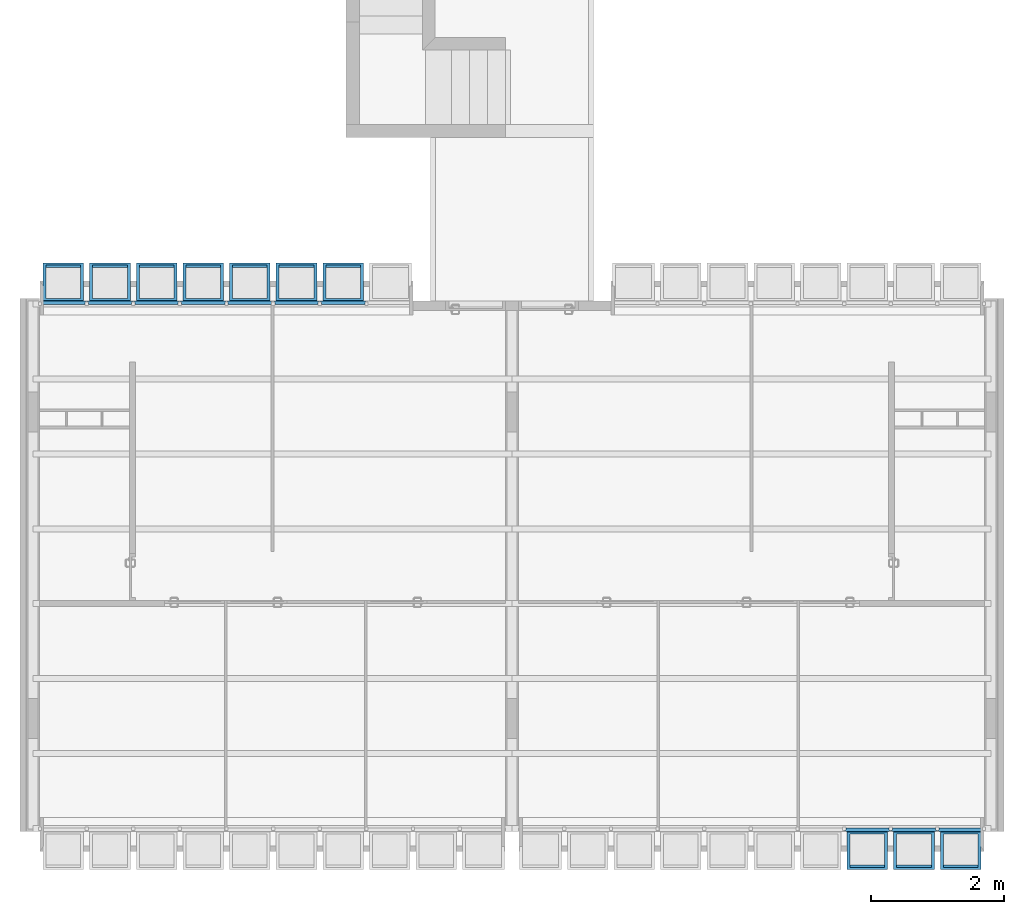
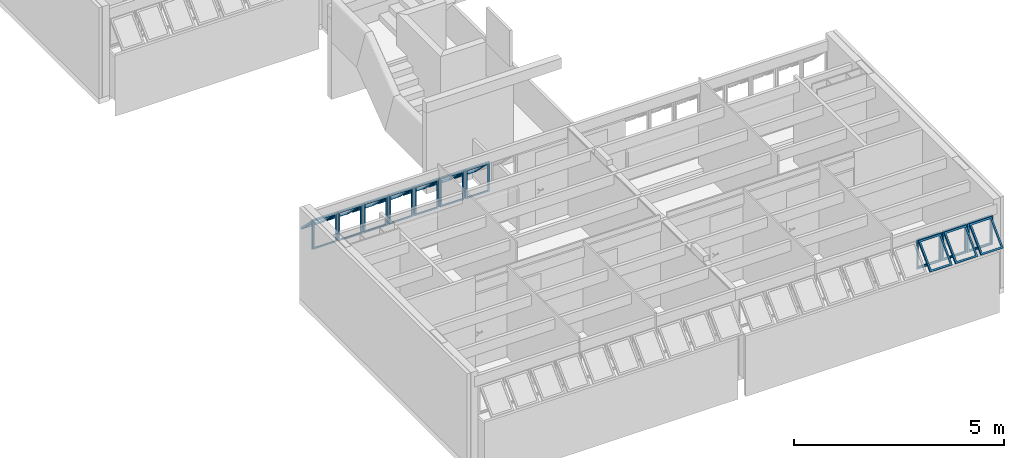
# One storey, part 29 of 38: 10 building element parts, 12 elements without a shape of their own.
"""IFC2X3 building model written with IfcOpenShell, lengths in millimetres."""

from ifc_helpers import new_model, entity, si_unit, converted_unit, derived_unit, money_unit, direction, frame, origin_with_axes, place, context, subcontext, project, spatial, faceted_brep, source, transform, mapped, material, type_object, element, aggregate, save


model = new_model("IFC2X3")

# Units and contexts
model_context = context("Model", 3, precision=0.01, world=origin_with_axes(), true_north=direction((0.0, 1.0)))
body_context = subcontext(model_context, "Body", "Model", "MODEL_VIEW")
ifc_project = project(units=[si_unit("LENGTHUNIT", "METRE", prefix="MILLI"), si_unit("AREAUNIT", "SQUARE_METRE"), si_unit("VOLUMEUNIT", "CUBIC_METRE"), converted_unit("PLANEANGLEUNIT", "DEGREE", entity("IfcPlaneAngleMeasure", 0.0174532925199), si_unit("PLANEANGLEUNIT", "RADIAN"), dimensions=[0, 0, 0, 0, 0, 0, 0]), money_unit("USD"), converted_unit("TIMEUNIT", "Year", entity("IfcTimeMeasure", 31556926.0), si_unit("TIMEUNIT", "SECOND"), dimensions=[0, 0, 1, 0, 0, 0, 0]), si_unit("MASSUNIT", "GRAM", prefix="KILO"), si_unit("THERMODYNAMICTEMPERATUREUNIT", "DEGREE_CELSIUS"), si_unit("LUMINOUSINTENSITYUNIT", "LUMEN"), si_unit("ENERGYUNIT", "JOULE", prefix="MEGA"), derived_unit("THERMALCONDUCTANCEUNIT", [(si_unit("POWERUNIT", "WATT"), 1), (si_unit("LENGTHUNIT", "METRE"), -1), (si_unit("THERMODYNAMICTEMPERATUREUNIT", "KELVIN"), -1)]), derived_unit("SPECIFICHEATCAPACITYUNIT", [(si_unit("ENERGYUNIT", "JOULE"), 1), (si_unit("MASSUNIT", "GRAM", prefix="KILO"), -1), (si_unit("THERMODYNAMICTEMPERATUREUNIT", "KELVIN"), -1)]), derived_unit("MASSDENSITYUNIT", [(si_unit("MASSUNIT", "GRAM", prefix="KILO"), 1), (si_unit("VOLUMEUNIT", "CUBIC_METRE"), -1)])], contexts=[model_context])

# Site, building, storey
site_placement = place(None, origin_with_axes())
site = spatial("IfcSite", under=ifc_project, at=site_placement, Name="Local", CompositionType="ELEMENT")
building_placement = place(site_placement, origin_with_axes())
building = spatial("IfcBuilding", under=site, at=building_placement, Name="Construção", CompositionType="ELEMENT")
storey_placement = place(building_placement, frame((0.0, 0.0, 2650.0), z_axis=(0.0, 0.0, 1.0), x_axis=(1.0, 0.0, 0.0)))
storey = spatial("IfcBuildingStorey", under=building, at=storey_placement, Name="Segundo Pavimento", CompositionType="ELEMENT", Elevation=2650.0)

# Window, plates, building element parts
window_style = type_object("IfcWindowStyle", Name="Tipo de Parede Cortina", ConstructionType="NOTDEFINED", OperationType="NOTDEFINED", ParameterTakesPrecedence=False, Sizeable=False)
window_1_placement = place(storey_placement, frame((2750.0, 8250.0, 1355.00007107), z_axis=(0.0, 0.0, 1.0), x_axis=(1.0, 0.0, 0.0)))
window_1 = element("IfcWindow", 1, at=window_1_placement, inside=storey, type_object=window_style, Name="APTO5-JANELA-000")
plate_type = type_object("IfcPlateType", Name="Painel Principal 690 x 845 x 20", PredefinedType="CURTAIN_PANEL")
plate_1_placement = place(window_1_placement, frame((0.0, 0.0, 422.499964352), z_axis=(0.0, 0.0, 1.0), x_axis=(-1.0, 0.0, 0.0)))
plate_1 = element("IfcPlate", 2, at=plate_1_placement, type_object=plate_type, Name="APTO5-Painel-Prin-013")
ifc_material = material(Name="Alumínio")
shared_shape_1 = source(origin_with_axes(), body_context, "Body", "Brep", [
    faceted_brep([(-25.0000036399, 0.0, -40.0), (-25.0000036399, 0.0, -35.0), (-674.999997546, 0.0, -35.0), (-674.999997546, 0.0, -40.0), (-70.0000036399, 45.0, -40.0), (-70.0000036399, 45.0, -35.0), (-629.999997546, 45.0, -35.0), (-629.999997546, 45.0, -40.0)], [[[0, 1, 2, 3]], [[4, 5, 1, 0]], [[1, 5, 6, 2]], [[3, 2, 6, 7]], [[0, 3, 7, 4]], [[7, 6, 5, 4]]]),
    faceted_brep([(-674.999997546, 0.0, -40.0), (-674.999997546, 0.0, -35.0), (-674.999997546, 844.999891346, -35.0), (-674.999997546, 844.999891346, -40.0), (-629.999997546, 45.0, -40.0), (-629.999997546, 45.0, -35.0), (-629.999997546, 799.999891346, -35.0), (-629.999997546, 799.999891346, -40.0)], [[[0, 1, 2, 3]], [[4, 5, 1, 0]], [[1, 5, 6, 2]], [[3, 2, 6, 7]], [[0, 3, 7, 4]], [[7, 6, 5, 4]]]),
    faceted_brep([(-25.0000036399, 844.999891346, -40.0), (-25.0000036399, 844.999891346, -35.0), (-70.0000036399, 799.999891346, -35.0), (-70.0000036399, 799.999891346, -40.0), (-674.999997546, 844.999891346, -40.0), (-674.999997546, 844.999891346, -35.0), (-629.999997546, 799.999891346, -35.0), (-629.999997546, 799.999891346, -40.0)], [[[0, 1, 2, 3]], [[4, 5, 1, 0]], [[1, 5, 6, 2]], [[3, 2, 6, 7]], [[0, 3, 7, 4]], [[7, 6, 5, 4]]]),
    faceted_brep([(-25.0000036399, 0.0, -40.0), (-25.0000036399, 0.0, -35.0), (-70.0000036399, 45.0, -35.0), (-70.0000036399, 45.0, -40.0), (-25.0000036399, 844.999891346, -40.0), (-25.0000036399, 844.999891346, -35.0), (-70.0000036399, 799.999891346, -35.0), (-70.0000036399, 799.999891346, -40.0)], [[[0, 1, 2, 3]], [[4, 5, 1, 0]], [[1, 5, 6, 2]], [[3, 2, 6, 7]], [[0, 3, 7, 4]], [[7, 6, 5, 4]]]),
    faceted_brep([(-25.0000036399, 0.0, -35.0), (-25.0000036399, 0.0, 15.0), (-674.999997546, 0.0, 15.0), (-674.999997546, 0.0, -35.0), (-45.0000036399, 20.0, -35.0), (-45.0000036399, 20.0, 15.0), (-654.999997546, 20.0, 15.0), (-654.999997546, 20.0, -35.0)], [[[0, 1, 2, 3]], [[4, 5, 1, 0]], [[1, 5, 6, 2]], [[3, 2, 6, 7]], [[0, 3, 7, 4]], [[7, 6, 5, 4]]]),
    faceted_brep([(-674.999997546, 0.0, -35.0), (-674.999997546, 0.0, 15.0), (-674.999997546, 844.999891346, 15.0), (-674.999997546, 844.999891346, -35.0), (-654.999997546, 20.0, -35.0), (-654.999997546, 20.0, 15.0), (-654.999997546, 824.999891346, 15.0), (-654.999997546, 824.999891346, -35.0)], [[[0, 1, 2, 3]], [[4, 5, 1, 0]], [[1, 5, 6, 2]], [[3, 2, 6, 7]], [[0, 3, 7, 4]], [[7, 6, 5, 4]]]),
    faceted_brep([(-25.0000036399, 844.999891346, -35.0), (-25.0000036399, 844.999891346, 15.0), (-45.0000036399, 824.999891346, 15.0), (-45.0000036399, 824.999891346, -35.0), (-674.999997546, 844.999891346, -35.0), (-674.999997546, 844.999891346, 15.0), (-654.999997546, 824.999891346, 15.0), (-654.999997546, 824.999891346, -35.0)], [[[0, 1, 2, 3]], [[4, 5, 1, 0]], [[1, 5, 6, 2]], [[3, 2, 6, 7]], [[0, 3, 7, 4]], [[7, 6, 5, 4]]]),
    faceted_brep([(-25.0000036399, 0.0, -35.0), (-25.0000036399, 0.0, 15.0), (-45.0000036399, 20.0, 15.0), (-45.0000036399, 20.0, -35.0), (-25.0000036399, 844.999891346, -35.0), (-25.0000036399, 844.999891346, 15.0), (-45.0000036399, 824.999891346, 15.0), (-45.0000036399, 824.999891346, -35.0)], [[[0, 1, 2, 3]], [[4, 5, 1, 0]], [[1, 5, 6, 2]], [[3, 2, 6, 7]], [[0, 3, 7, 4]], [[7, 6, 5, 4]]]),
    faceted_brep([(-694.999995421, 0.0, -10.0), (-694.999995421, 0.0, 10.0), (-694.999995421, 844.999891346, 10.0), (-694.999995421, 844.999891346, -10.0), (-674.999997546, 0.0, -10.0), (-674.999997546, 0.0, 10.0), (-674.999997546, 844.999891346, 10.0), (-674.999997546, 844.999891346, -10.0)], [[[0, 1, 2, 3]], [[4, 5, 1, 0]], [[1, 5, 6, 2]], [[3, 2, 6, 7]], [[0, 3, 7, 4]], [[7, 6, 5, 4]]]),
    faceted_brep([(-5.00000576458, 844.999891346, -10.0), (-5.00000576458, 844.999891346, 10.0), (-5.00000576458, 0.0, 10.0), (-5.00000576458, 0.0, -10.0), (-25.0000036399, 844.999891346, -10.0), (-25.0000036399, 844.999891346, 10.0), (-25.0000036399, 0.0, 10.0), (-25.0000036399, 0.0, -10.0)], [[[0, 1, 2, 3]], [[4, 5, 1, 0]], [[1, 5, 6, 2]], [[3, 2, 6, 7]], [[0, 3, 7, 4]], [[7, 6, 5, 4]]]),
    faceted_brep([(-90.0000036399, 252.243475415, 517.045737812), (-90.0000036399, 291.13434838, 555.936610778), (-90.0000036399, 796.715620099, 50.3553390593), (-90.0000036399, 757.824747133, 11.4644660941), (-45.0000036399, 220.423670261, 548.865542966), (-45.0000036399, 259.314543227, 587.756415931), (-45.0000036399, 828.535425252, 18.5355339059), (-45.0000036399, 789.644552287, -20.3553390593)], [[[0, 1, 2, 3]], [[4, 5, 1, 0]], [[1, 5, 6, 2]], [[3, 2, 6, 7]], [[0, 3, 7, 4]], [[7, 6, 5, 4]]]),
    faceted_brep([(-654.999997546, 220.423670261, 548.865542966), (-654.999997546, 259.314543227, 587.756415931), (-654.999997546, 828.535425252, 18.5355339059), (-654.999997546, 789.644552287, -20.3553390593), (-609.999997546, 252.243475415, 517.045737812), (-609.999997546, 291.13434838, 555.936610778), (-609.999997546, 796.715620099, 50.3553390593), (-609.999997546, 757.824747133, 11.4644660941)], [[[0, 1, 2, 3]], [[4, 5, 1, 0]], [[1, 5, 6, 2]], [[3, 2, 6, 7]], [[0, 3, 7, 4]], [[7, 6, 5, 4]]]),
    faceted_brep([(-654.999997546, 220.423670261, 548.865542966), (-654.999997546, 259.314543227, 587.756415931), (-609.999997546, 291.13434838, 555.936610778), (-609.999997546, 252.243475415, 517.045737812), (-45.0000036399, 220.423670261, 548.865542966), (-45.0000036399, 259.314543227, 587.756415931), (-90.0000036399, 291.13434838, 555.936610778), (-90.0000036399, 252.243475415, 517.045737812)], [[[0, 1, 2, 3]], [[4, 5, 1, 0]], [[1, 5, 6, 2]], [[3, 2, 6, 7]], [[0, 3, 7, 4]], [[7, 6, 5, 4]]]),
    faceted_brep([(-45.0000036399, 789.644552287, -20.3553390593), (-45.0000036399, 828.535425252, 18.5355339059), (-90.0000036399, 796.715620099, 50.3553390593), (-90.0000036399, 757.824747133, 11.4644660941), (-654.999997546, 789.644552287, -20.3553390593), (-654.999997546, 828.535425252, 18.5355339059), (-609.999997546, 796.715620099, 50.3553390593), (-609.999997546, 757.824747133, 11.4644660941)], [[[0, 1, 2, 3]], [[4, 5, 1, 0]], [[1, 5, 6, 2]], [[3, 2, 6, 7]], [[0, 3, 7, 4]], [[7, 6, 5, 4]]]),
])
building_element_part_1_placement = place(plate_1_placement, origin_with_axes())
building_element_part_1 = element("IfcBuildingElementPart", 3, at=building_element_part_1_placement, material=ifc_material, Name="Alumínio", context=body_context, shape_type="MappedRepresentation", body=[
    mapped(shared_shape_1, transform((350.0, 0.0, -422.499964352), x_axis=(1.0, 0.0, 0.0), y_axis=(0.0, 0.0, 1.0), z_axis=(0.0, -1.0, 0.0))),
])
aggregate(plate_1, [building_element_part_1])
plate_2_placement = place(window_1_placement, frame((2100.0, 0.0, 422.499964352), z_axis=(0.0, 0.0, 1.0), x_axis=(-1.0, 0.0, 0.0)))
plate_2 = element("IfcPlate", 4, at=plate_2_placement, type_object=plate_type, Name="APTO5-Painel-Prin-029")
building_element_part_2_placement = place(plate_2_placement, origin_with_axes())
building_element_part_2 = element("IfcBuildingElementPart", 5, at=building_element_part_2_placement, material=ifc_material, Name="Alumínio", context=body_context, shape_type="MappedRepresentation", body=[
    mapped(shared_shape_1, transform((350.0, 0.0, -422.499964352), x_axis=(1.0, 0.0, 0.0), y_axis=(0.0, 0.0, 1.0), z_axis=(0.0, -1.0, 0.0))),
])
aggregate(plate_2, [building_element_part_2])
plate_3_placement = place(window_1_placement, frame((-2100.0, 0.0, 422.499998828), z_axis=(0.0, 0.0, 1.0), x_axis=(-1.0, 0.0, 0.0)))
plate_3 = element("IfcPlate", 6, at=plate_3_placement, type_object=plate_type, Name="APTO5-Painel-Prin-013")
shared_shape_2 = source(origin_with_axes(), body_context, "Body", "Brep", [
    faceted_brep([(-25.0000036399, 0.0, -40.0), (-25.0000036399, 0.0, -35.0), (-674.999997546, 0.0, -35.0), (-674.999997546, 0.0, -40.0), (-70.0000036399, 45.0, -40.0), (-70.0000036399, 45.0, -35.0), (-629.999997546, 45.0, -35.0), (-629.999997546, 45.0, -40.0)], [[[0, 1, 2, 3]], [[4, 5, 1, 0]], [[1, 5, 6, 2]], [[3, 2, 6, 7]], [[0, 3, 7, 4]], [[7, 6, 5, 4]]]),
    faceted_brep([(-674.999997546, 0.0, -40.0), (-674.999997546, 0.0, -35.0), (-674.999997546, 844.999891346, -35.0), (-674.999997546, 844.999891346, -40.0), (-629.999997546, 45.0, -40.0), (-629.999997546, 45.0, -35.0), (-629.999997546, 799.999891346, -35.0), (-629.999997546, 799.999891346, -40.0)], [[[0, 1, 2, 3]], [[4, 5, 1, 0]], [[1, 5, 6, 2]], [[3, 2, 6, 7]], [[0, 3, 7, 4]], [[7, 6, 5, 4]]]),
    faceted_brep([(-25.0000036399, 844.999891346, -40.0), (-25.0000036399, 844.999891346, -35.0), (-70.0000036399, 799.999891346, -35.0), (-70.0000036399, 799.999891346, -40.0), (-674.999997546, 844.999891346, -40.0), (-674.999997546, 844.999891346, -35.0), (-629.999997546, 799.999891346, -35.0), (-629.999997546, 799.999891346, -40.0)], [[[0, 1, 2, 3]], [[4, 5, 1, 0]], [[1, 5, 6, 2]], [[3, 2, 6, 7]], [[0, 3, 7, 4]], [[7, 6, 5, 4]]]),
    faceted_brep([(-25.0000036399, 0.0, -40.0), (-25.0000036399, 0.0, -35.0), (-70.0000036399, 45.0, -35.0), (-70.0000036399, 45.0, -40.0), (-25.0000036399, 844.999891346, -40.0), (-25.0000036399, 844.999891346, -35.0), (-70.0000036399, 799.999891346, -35.0), (-70.0000036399, 799.999891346, -40.0)], [[[0, 1, 2, 3]], [[4, 5, 1, 0]], [[1, 5, 6, 2]], [[3, 2, 6, 7]], [[0, 3, 7, 4]], [[7, 6, 5, 4]]]),
    faceted_brep([(-25.0000036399, 0.0, -35.0), (-25.0000036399, 0.0, 15.0), (-674.999997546, 0.0, 15.0), (-674.999997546, 0.0, -35.0), (-45.0000036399, 20.0, -35.0), (-45.0000036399, 20.0, 15.0), (-654.999997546, 20.0, 15.0), (-654.999997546, 20.0, -35.0)], [[[0, 1, 2, 3]], [[4, 5, 1, 0]], [[1, 5, 6, 2]], [[3, 2, 6, 7]], [[0, 3, 7, 4]], [[7, 6, 5, 4]]]),
    faceted_brep([(-674.999997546, 0.0, -35.0), (-674.999997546, 0.0, 15.0), (-674.999997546, 844.999891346, 15.0), (-674.999997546, 844.999891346, -35.0), (-654.999997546, 20.0, -35.0), (-654.999997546, 20.0, 15.0), (-654.999997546, 824.999891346, 15.0), (-654.999997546, 824.999891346, -35.0)], [[[0, 1, 2, 3]], [[4, 5, 1, 0]], [[1, 5, 6, 2]], [[3, 2, 6, 7]], [[0, 3, 7, 4]], [[7, 6, 5, 4]]]),
    faceted_brep([(-25.0000036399, 844.999891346, -35.0), (-25.0000036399, 844.999891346, 15.0), (-45.0000036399, 824.999891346, 15.0), (-45.0000036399, 824.999891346, -35.0), (-674.999997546, 844.999891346, -35.0), (-674.999997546, 844.999891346, 15.0), (-654.999997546, 824.999891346, 15.0), (-654.999997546, 824.999891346, -35.0)], [[[0, 1, 2, 3]], [[4, 5, 1, 0]], [[1, 5, 6, 2]], [[3, 2, 6, 7]], [[0, 3, 7, 4]], [[7, 6, 5, 4]]]),
    faceted_brep([(-25.0000036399, 0.0, -35.0), (-25.0000036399, 0.0, 15.0), (-45.0000036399, 20.0, 15.0), (-45.0000036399, 20.0, -35.0), (-25.0000036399, 844.999891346, -35.0), (-25.0000036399, 844.999891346, 15.0), (-45.0000036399, 824.999891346, 15.0), (-45.0000036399, 824.999891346, -35.0)], [[[0, 1, 2, 3]], [[4, 5, 1, 0]], [[1, 5, 6, 2]], [[3, 2, 6, 7]], [[0, 3, 7, 4]], [[7, 6, 5, 4]]]),
    faceted_brep([(-694.999995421, 0.0, -10.0), (-694.999995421, 0.0, 10.0), (-694.999995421, 844.999891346, 10.0), (-694.999995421, 844.999891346, -10.0), (-674.999997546, 0.0, -10.0), (-674.999997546, 0.0, 10.0), (-674.999997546, 844.999891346, 10.0), (-674.999997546, 844.999891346, -10.0)], [[[0, 1, 2, 3]], [[4, 5, 1, 0]], [[1, 5, 6, 2]], [[3, 2, 6, 7]], [[0, 3, 7, 4]], [[7, 6, 5, 4]]]),
    faceted_brep([(-5.00000576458, 844.999891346, -10.0), (-5.00000576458, 844.999891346, 10.0), (-5.00000576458, 0.0, 10.0), (-5.00000576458, 0.0, -10.0), (-25.0000036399, 844.999891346, -10.0), (-25.0000036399, 844.999891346, 10.0), (-25.0000036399, 0.0, 10.0), (-25.0000036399, 0.0, -10.0)], [[[0, 1, 2, 3]], [[4, 5, 1, 0]], [[1, 5, 6, 2]], [[3, 2, 6, 7]], [[0, 3, 7, 4]], [[7, 6, 5, 4]]]),
    faceted_brep([(-90.0000036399, 252.243475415, 517.045737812), (-90.0000036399, 291.13434838, 555.936610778), (-90.0000036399, 796.715620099, 50.3553390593), (-90.0000036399, 757.824747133, 11.4644660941), (-45.0000036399, 220.423670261, 548.865542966), (-45.0000036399, 259.314543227, 587.756415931), (-45.0000036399, 828.535425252, 18.5355339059), (-45.0000036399, 789.644552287, -20.3553390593)], [[[0, 1, 2, 3]], [[4, 5, 1, 0]], [[1, 5, 6, 2]], [[3, 2, 6, 7]], [[0, 3, 7, 4]], [[7, 6, 5, 4]]]),
    faceted_brep([(-654.999997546, 220.423670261, 548.865542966), (-654.999997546, 259.314543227, 587.756415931), (-654.999997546, 828.535425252, 18.5355339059), (-654.999997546, 789.644552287, -20.3553390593), (-609.999997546, 252.243475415, 517.045737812), (-609.999997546, 291.13434838, 555.936610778), (-609.999997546, 796.715620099, 50.3553390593), (-609.999997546, 757.824747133, 11.4644660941)], [[[0, 1, 2, 3]], [[4, 5, 1, 0]], [[1, 5, 6, 2]], [[3, 2, 6, 7]], [[0, 3, 7, 4]], [[7, 6, 5, 4]]]),
    faceted_brep([(-654.999997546, 220.423670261, 548.865542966), (-654.999997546, 259.314543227, 587.756415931), (-609.999997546, 291.13434838, 555.936610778), (-609.999997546, 252.243475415, 517.045737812), (-45.0000036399, 220.423670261, 548.865542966), (-45.0000036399, 259.314543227, 587.756415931), (-90.0000036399, 291.13434838, 555.936610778), (-90.0000036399, 252.243475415, 517.045737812)], [[[0, 1, 2, 3]], [[4, 5, 1, 0]], [[1, 5, 6, 2]], [[3, 2, 6, 7]], [[0, 3, 7, 4]], [[7, 6, 5, 4]]]),
    faceted_brep([(-45.0000036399, 789.644552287, -20.3553390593), (-45.0000036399, 828.535425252, 18.5355339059), (-90.0000036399, 796.715620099, 50.3553390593), (-90.0000036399, 757.824747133, 11.4644660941), (-654.999997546, 789.644552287, -20.3553390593), (-654.999997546, 828.535425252, 18.5355339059), (-609.999997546, 796.715620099, 50.3553390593), (-609.999997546, 757.824747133, 11.4644660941)], [[[0, 1, 2, 3]], [[4, 5, 1, 0]], [[1, 5, 6, 2]], [[3, 2, 6, 7]], [[0, 3, 7, 4]], [[7, 6, 5, 4]]]),
])
building_element_part_3_placement = place(plate_3_placement, origin_with_axes())
building_element_part_3 = element("IfcBuildingElementPart", 7, at=building_element_part_3_placement, material=ifc_material, Name="Alumínio", context=body_context, shape_type="MappedRepresentation", body=[
    mapped(shared_shape_2, transform((350.0, 0.0, -422.499998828), x_axis=(1.0, 0.0, 0.0), y_axis=(0.0, 0.0, 1.0), z_axis=(0.0, -1.0, 0.0))),
])
aggregate(plate_3, [building_element_part_3])
plate_4_placement = place(window_1_placement, frame((-1400.0, 0.0, 422.499964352), z_axis=(0.0, 0.0, 1.0), x_axis=(-1.0, 0.0, 0.0)))
plate_4 = element("IfcPlate", 8, at=plate_4_placement, type_object=plate_type, Name="APTO5-Painel-Prin-013")
building_element_part_4_placement = place(plate_4_placement, origin_with_axes())
building_element_part_4 = element("IfcBuildingElementPart", 9, at=building_element_part_4_placement, material=ifc_material, Name="Alumínio", context=body_context, shape_type="MappedRepresentation", body=[
    mapped(shared_shape_2, transform((350.0, 0.0, -422.499964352), x_axis=(1.0, 0.0, 0.0), y_axis=(0.0, 0.0, 1.0), z_axis=(0.0, -1.0, 0.0))),
])
aggregate(plate_4, [building_element_part_4])
plate_5_placement = place(window_1_placement, frame((1400.0, 0.0, 422.499964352), z_axis=(0.0, 0.0, 1.0), x_axis=(-1.0, 0.0, 0.0)))
plate_5 = element("IfcPlate", 10, at=plate_5_placement, type_object=plate_type, Name="APTO5-Painel-Prin-025")
building_element_part_5_placement = place(plate_5_placement, origin_with_axes())
building_element_part_5 = element("IfcBuildingElementPart", 11, at=building_element_part_5_placement, material=ifc_material, Name="Alumínio", context=body_context, shape_type="MappedRepresentation", body=[
    mapped(shared_shape_2, transform((350.0, 0.0, -422.499964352), x_axis=(1.0, 0.0, 0.0), y_axis=(0.0, 0.0, 1.0), z_axis=(0.0, -1.0, 0.0))),
])
aggregate(plate_5, [building_element_part_5])

window_2_placement = place(storey_placement, frame((8520.0, 315.020977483, 1355.02054151), z_axis=(0.0, 0.0, 1.0), x_axis=(1.0, 0.0, 0.0)))
window_2 = element("IfcWindow", 12, at=window_2_placement, inside=storey, type_object=window_style, Name="APTO6-JANELA-001")
plate_6_placement = place(window_2_placement, frame((5600.0, 0.0, 422.499945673), z_axis=(0.0, 0.0, 1.0), x_axis=(1.0, 0.0, 0.0)))
plate_6 = element("IfcPlate", 13, at=plate_6_placement, type_object=plate_type, Name="APTO6-Painel-Prin-013")
building_element_part_6_placement = place(plate_6_placement, origin_with_axes())
building_element_part_6 = element("IfcBuildingElementPart", 14, at=building_element_part_6_placement, material=ifc_material, Name="Alumínio", context=body_context, shape_type="MappedRepresentation", body=[
    mapped(shared_shape_2, transform((350.0, 0.0, -422.499945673), x_axis=(1.0, 0.0, 0.0), y_axis=(0.0, 0.0, 1.0), z_axis=(0.0, -1.0, 0.0))),
])
aggregate(plate_6, [building_element_part_6])
plate_7_placement = place(window_2_placement, frame((4900.0, 0.0, 422.499945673), z_axis=(0.0, 0.0, 1.0), x_axis=(1.0, 0.0, 0.0)))
plate_7 = element("IfcPlate", 15, at=plate_7_placement, type_object=plate_type, Name="APTO6-Painel-Prin-013")
building_element_part_7_placement = place(plate_7_placement, origin_with_axes())
building_element_part_7 = element("IfcBuildingElementPart", 16, at=building_element_part_7_placement, material=ifc_material, Name="Alumínio", context=body_context, shape_type="MappedRepresentation", body=[
    mapped(shared_shape_2, transform((350.0, 0.0, -422.499945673), x_axis=(1.0, 0.0, 0.0), y_axis=(0.0, 0.0, 1.0), z_axis=(0.0, -1.0, 0.0))),
])
aggregate(plate_7, [building_element_part_7])

# Plate, building element part
plate_8_placement = place(window_1_placement, frame((700.0, 0.0, 422.499964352), z_axis=(0.0, 0.0, 1.0), x_axis=(-1.0, 0.0, 0.0)))
plate_8 = element("IfcPlate", 17, at=plate_8_placement, type_object=plate_type, Name="APTO5-Painel-Prin-013")
shared_shape_3 = source(origin_with_axes(), body_context, "Body", "Brep", [
    faceted_brep([(-25.0000036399, 0.0, -40.0), (-25.0000036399, 0.0, -35.0), (-674.999997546, 0.0, -35.0), (-674.999997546, 0.0, -40.0), (-70.0000036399, 45.0, -40.0), (-70.0000036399, 45.0, -35.0), (-629.999997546, 45.0, -35.0), (-629.999997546, 45.0, -40.0)], [[[0, 1, 2, 3]], [[4, 5, 1, 0]], [[1, 5, 6, 2]], [[3, 2, 6, 7]], [[0, 3, 7, 4]], [[7, 6, 5, 4]]]),
    faceted_brep([(-674.999997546, 0.0, -40.0), (-674.999997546, 0.0, -35.0), (-674.999997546, 844.999891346, -35.0), (-674.999997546, 844.999891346, -40.0), (-629.999997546, 45.0, -40.0), (-629.999997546, 45.0, -35.0), (-629.999997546, 799.999891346, -35.0), (-629.999997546, 799.999891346, -40.0)], [[[0, 1, 2, 3]], [[4, 5, 1, 0]], [[1, 5, 6, 2]], [[3, 2, 6, 7]], [[0, 3, 7, 4]], [[7, 6, 5, 4]]]),
    faceted_brep([(-25.0000036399, 844.999891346, -40.0), (-25.0000036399, 844.999891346, -35.0), (-70.0000036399, 799.999891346, -35.0), (-70.0000036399, 799.999891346, -40.0), (-674.999997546, 844.999891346, -40.0), (-674.999997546, 844.999891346, -35.0), (-629.999997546, 799.999891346, -35.0), (-629.999997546, 799.999891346, -40.0)], [[[0, 1, 2, 3]], [[4, 5, 1, 0]], [[1, 5, 6, 2]], [[3, 2, 6, 7]], [[0, 3, 7, 4]], [[7, 6, 5, 4]]]),
    faceted_brep([(-25.0000036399, 0.0, -40.0), (-25.0000036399, 0.0, -35.0), (-70.0000036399, 45.0, -35.0), (-70.0000036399, 45.0, -40.0), (-25.0000036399, 844.999891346, -40.0), (-25.0000036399, 844.999891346, -35.0), (-70.0000036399, 799.999891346, -35.0), (-70.0000036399, 799.999891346, -40.0)], [[[0, 1, 2, 3]], [[4, 5, 1, 0]], [[1, 5, 6, 2]], [[3, 2, 6, 7]], [[0, 3, 7, 4]], [[7, 6, 5, 4]]]),
    faceted_brep([(-25.0000036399, 0.0, -35.0), (-25.0000036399, 0.0, 15.0), (-674.999997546, 0.0, 15.0), (-674.999997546, 0.0, -35.0), (-45.0000036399, 20.0, -35.0), (-45.0000036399, 20.0, 15.0), (-654.999997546, 20.0, 15.0), (-654.999997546, 20.0, -35.0)], [[[0, 1, 2, 3]], [[4, 5, 1, 0]], [[1, 5, 6, 2]], [[3, 2, 6, 7]], [[0, 3, 7, 4]], [[7, 6, 5, 4]]]),
    faceted_brep([(-674.999997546, 0.0, -35.0), (-674.999997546, 0.0, 15.0), (-674.999997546, 844.999891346, 15.0), (-674.999997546, 844.999891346, -35.0), (-654.999997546, 20.0, -35.0), (-654.999997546, 20.0, 15.0), (-654.999997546, 824.999891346, 15.0), (-654.999997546, 824.999891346, -35.0)], [[[0, 1, 2, 3]], [[4, 5, 1, 0]], [[1, 5, 6, 2]], [[3, 2, 6, 7]], [[0, 3, 7, 4]], [[7, 6, 5, 4]]]),
    faceted_brep([(-25.0000036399, 844.999891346, -35.0), (-25.0000036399, 844.999891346, 15.0), (-45.0000036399, 824.999891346, 15.0), (-45.0000036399, 824.999891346, -35.0), (-674.999997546, 844.999891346, -35.0), (-674.999997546, 844.999891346, 15.0), (-654.999997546, 824.999891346, 15.0), (-654.999997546, 824.999891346, -35.0)], [[[0, 1, 2, 3]], [[4, 5, 1, 0]], [[1, 5, 6, 2]], [[3, 2, 6, 7]], [[0, 3, 7, 4]], [[7, 6, 5, 4]]]),
    faceted_brep([(-25.0000036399, 0.0, -35.0), (-25.0000036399, 0.0, 15.0), (-45.0000036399, 20.0, 15.0), (-45.0000036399, 20.0, -35.0), (-25.0000036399, 844.999891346, -35.0), (-25.0000036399, 844.999891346, 15.0), (-45.0000036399, 824.999891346, 15.0), (-45.0000036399, 824.999891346, -35.0)], [[[0, 1, 2, 3]], [[4, 5, 1, 0]], [[1, 5, 6, 2]], [[3, 2, 6, 7]], [[0, 3, 7, 4]], [[7, 6, 5, 4]]]),
    faceted_brep([(-694.999995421, 0.0, -10.0), (-694.999995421, 0.0, 10.0), (-694.999995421, 844.999891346, 10.0), (-694.999995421, 844.999891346, -10.0), (-674.999997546, 0.0, -10.0), (-674.999997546, 0.0, 10.0), (-674.999997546, 844.999891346, 10.0), (-674.999997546, 844.999891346, -10.0)], [[[0, 1, 2, 3]], [[4, 5, 1, 0]], [[1, 5, 6, 2]], [[3, 2, 6, 7]], [[0, 3, 7, 4]], [[7, 6, 5, 4]]]),
    faceted_brep([(-5.00000576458, 844.999891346, -10.0), (-5.00000576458, 844.999891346, 10.0), (-5.00000576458, 0.0, 10.0), (-5.00000576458, 0.0, -10.0), (-25.0000036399, 844.999891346, -10.0), (-25.0000036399, 844.999891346, 10.0), (-25.0000036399, 0.0, 10.0), (-25.0000036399, 0.0, -10.0)], [[[0, 1, 2, 3]], [[4, 5, 1, 0]], [[1, 5, 6, 2]], [[3, 2, 6, 7]], [[0, 3, 7, 4]], [[7, 6, 5, 4]]]),
    faceted_brep([(-90.0000036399, 252.243475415, 517.045737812), (-90.0000036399, 291.13434838, 555.936610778), (-90.0000036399, 796.715620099, 50.3553390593), (-90.0000036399, 757.824747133, 11.4644660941), (-45.0000036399, 220.423670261, 548.865542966), (-45.0000036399, 259.314543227, 587.756415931), (-45.0000036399, 828.535425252, 18.5355339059), (-45.0000036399, 789.644552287, -20.3553390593)], [[[0, 1, 2, 3]], [[4, 5, 1, 0]], [[1, 5, 6, 2]], [[3, 2, 6, 7]], [[0, 3, 7, 4]], [[7, 6, 5, 4]]]),
    faceted_brep([(-654.999997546, 220.423670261, 548.865542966), (-654.999997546, 259.314543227, 587.756415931), (-654.999997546, 828.535425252, 18.5355339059), (-654.999997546, 789.644552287, -20.3553390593), (-609.999997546, 252.243475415, 517.045737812), (-609.999997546, 291.13434838, 555.936610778), (-609.999997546, 796.715620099, 50.3553390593), (-609.999997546, 757.824747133, 11.4644660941)], [[[0, 1, 2, 3]], [[4, 5, 1, 0]], [[1, 5, 6, 2]], [[3, 2, 6, 7]], [[0, 3, 7, 4]], [[7, 6, 5, 4]]]),
    faceted_brep([(-654.999997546, 220.423670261, 548.865542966), (-654.999997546, 259.314543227, 587.756415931), (-609.999997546, 291.13434838, 555.936610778), (-609.999997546, 252.243475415, 517.045737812), (-45.0000036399, 220.423670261, 548.865542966), (-45.0000036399, 259.314543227, 587.756415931), (-90.0000036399, 291.13434838, 555.936610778), (-90.0000036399, 252.243475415, 517.045737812)], [[[0, 1, 2, 3]], [[4, 5, 1, 0]], [[1, 5, 6, 2]], [[3, 2, 6, 7]], [[0, 3, 7, 4]], [[7, 6, 5, 4]]]),
    faceted_brep([(-45.0000036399, 789.644552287, -20.3553390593), (-45.0000036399, 828.535425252, 18.5355339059), (-90.0000036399, 796.715620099, 50.3553390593), (-90.0000036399, 757.824747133, 11.4644660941), (-654.999997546, 789.644552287, -20.3553390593), (-654.999997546, 828.535425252, 18.5355339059), (-609.999997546, 796.715620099, 50.3553390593), (-609.999997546, 757.824747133, 11.4644660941)], [[[0, 1, 2, 3]], [[4, 5, 1, 0]], [[1, 5, 6, 2]], [[3, 2, 6, 7]], [[0, 3, 7, 4]], [[7, 6, 5, 4]]]),
])
building_element_part_8_placement = place(plate_8_placement, origin_with_axes())
building_element_part_8 = element("IfcBuildingElementPart", 18, at=building_element_part_8_placement, material=ifc_material, Name="Alumínio", context=body_context, shape_type="MappedRepresentation", body=[
    mapped(shared_shape_3, transform((350.0, 0.0, -422.499964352), x_axis=(1.0, 0.0, 0.0), y_axis=(0.0, 0.0, 1.0), z_axis=(0.0, -1.0, 0.0))),
])
aggregate(plate_8, [building_element_part_8])

# Plate
plate_9_placement = place(window_1_placement, frame((-700.0, 0.0, 422.499964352), z_axis=(0.0, 0.0, 1.0), x_axis=(-1.0, 0.0, 0.0)))
plate_9 = element("IfcPlate", 19, at=plate_9_placement, type_object=plate_type, Name="APTO5-Painel-Prin-013")

aggregate(window_1, [plate_1, plate_2, plate_3, plate_4, plate_8, plate_5, plate_9])

# Building element part
building_element_part_9_placement = place(plate_9_placement, origin_with_axes())
building_element_part_9 = element("IfcBuildingElementPart", 20, at=building_element_part_9_placement, material=ifc_material, Name="Alumínio", context=body_context, shape_type="MappedRepresentation", body=[
    mapped(shared_shape_3, transform((350.0, 0.0, -422.499964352), x_axis=(1.0, 0.0, 0.0), y_axis=(0.0, 0.0, 1.0), z_axis=(0.0, -1.0, 0.0))),
])

aggregate(plate_9, [building_element_part_9])

# Plate
plate_10_placement = place(window_2_placement, frame((4200.0, 0.0, 422.499945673), z_axis=(0.0, 0.0, 1.0), x_axis=(1.0, 0.0, 0.0)))
plate_10 = element("IfcPlate", 21, at=plate_10_placement, type_object=plate_type, Name="APTO6-Painel-Prin-013")

aggregate(window_2, [plate_6, plate_7, plate_10])

# Building element part
building_element_part_10_placement = place(plate_10_placement, origin_with_axes())
building_element_part_10 = element("IfcBuildingElementPart", 22, at=building_element_part_10_placement, material=ifc_material, Name="Alumínio", context=body_context, shape_type="MappedRepresentation", body=[
    mapped(shared_shape_3, transform((350.0, 0.0, -422.499945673), x_axis=(1.0, 0.0, 0.0), y_axis=(0.0, 0.0, 1.0), z_axis=(0.0, -1.0, 0.0))),
])

aggregate(plate_10, [building_element_part_10])

save(model, "model.ifc")
